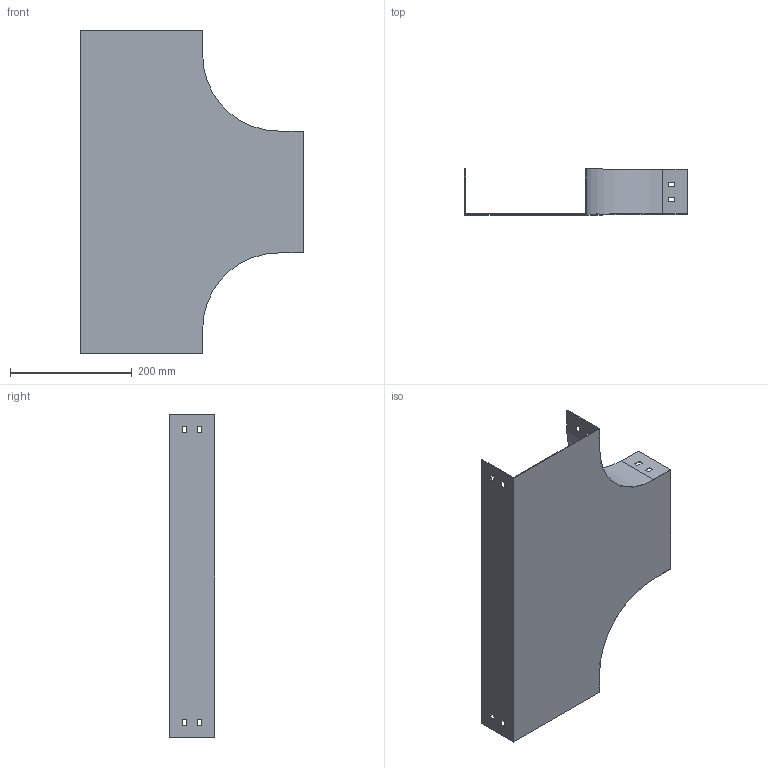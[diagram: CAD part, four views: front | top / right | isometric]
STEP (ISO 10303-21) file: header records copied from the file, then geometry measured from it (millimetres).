
FILE_DESCRIPTION (( 'STEP AP214' ), '1' );
FILE_NAME ('PT_207.step', '2025-07-16T09:23:41', ( '' ), ( '' ), 'SwSTEP 2.0', 'SolidWorks 2023', '' );
FILE_SCHEMA (( 'AUTOMOTIVE_DESIGN' ));
Length unit declared in the file: millimetre
Products named in the file (1): PT_207
Bounding box: 365 x 75 x 530 mm (x, y, z)
Volume: 336926.8 mm3; surface area: 453033.3 mm2
Topology: 1 solids, 1 shells, 70 faces, 204 edges, 136 vertices
Faces by surface type: plane 66, cylinder 4
Entity records: 2347 total; most frequent: CARTESIAN_POINT 411, ORIENTED_EDGE 408, DIRECTION 354, EDGE_CURVE 204, VECTOR 196, LINE 196, VERTEX_POINT 136, EDGE_LOOP 94
